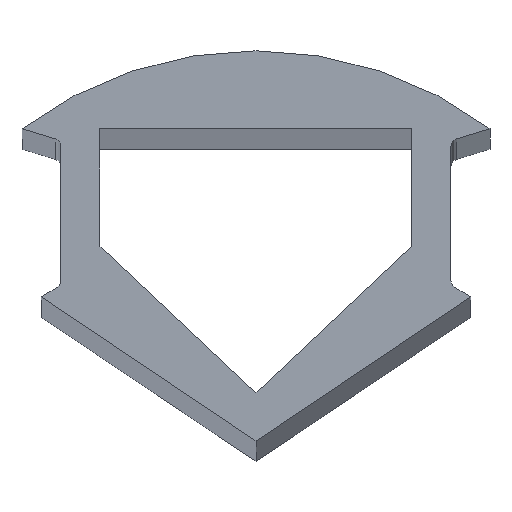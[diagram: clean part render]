
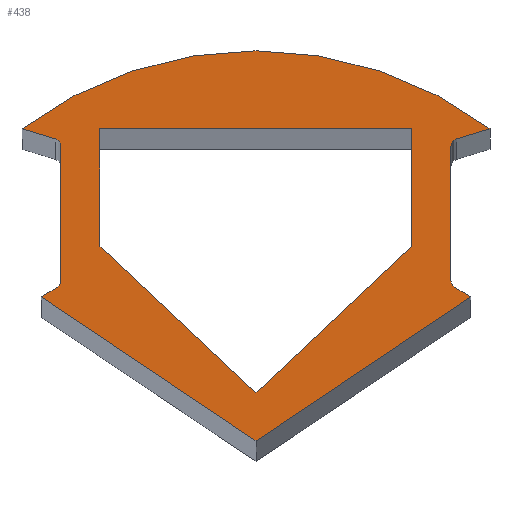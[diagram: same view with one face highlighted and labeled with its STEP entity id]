
A CAD part, top view. The second image highlights one B-rep face of the part: STEP entity #438.
In plain terms, the highlighted planar face has unit normal (0, 0, 1).
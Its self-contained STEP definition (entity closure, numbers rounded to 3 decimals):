
#6 = DIRECTION ( 'NONE',  ( 0., 0., -1. ) ) ;
#7 = VERTEX_POINT ( 'NONE', #629 ) ;
#9 = CARTESIAN_POINT ( 'NONE',  ( 5.2, 2.548, 150. ) ) ;
#20 = EDGE_CURVE ( 'NONE', #688, #523, #260, .T. ) ;
#23 = LINE ( 'NONE', #658, #35 ) ;
#25 = DIRECTION ( 'NONE',  ( 0., 0., -1. ) ) ;
#35 = VECTOR ( 'NONE', #586, 1000. ) ;
#36 = ORIENTED_EDGE ( 'NONE', *, *, #182, .T. ) ;
#37 = AXIS2_PLACEMENT_3D ( 'NONE', #93, #25, #661 ) ;
#39 = LINE ( 'NONE', #681, #652 ) ;
#41 = VERTEX_POINT ( 'NONE', #333 ) ;
#51 = VECTOR ( 'NONE', #569, 1000. ) ;
#52 = CARTESIAN_POINT ( 'NONE',  ( 4., -0.016, 150. ) ) ;
#54 = ORIENTED_EDGE ( 'NONE', *, *, #163, .T. ) ;
#55 = AXIS2_PLACEMENT_3D ( 'NONE', #226, #153, #82 ) ;
#57 = LINE ( 'NONE', #699, #515 ) ;
#62 = CIRCLE ( 'NONE', #78, 0.2 ) ;
#66 = ORIENTED_EDGE ( 'NONE', *, *, #20, .T. ) ;
#70 = EDGE_CURVE ( 'NONE', #110, #41, #592, .T. ) ;
#78 = AXIS2_PLACEMENT_3D ( 'NONE', #9, #648, #576 ) ;
#79 = CARTESIAN_POINT ( 'NONE',  ( 6., 3., 150. ) ) ;
#80 = VERTEX_POINT ( 'NONE', #85 ) ;
#82 = DIRECTION ( 'NONE',  ( 1., 0., 0. ) ) ;
#85 = CARTESIAN_POINT ( 'NONE',  ( -5.5, -1.312, 150. ) ) ;
#88 = ORIENTED_EDGE ( 'NONE', *, *, #130, .T. ) ;
#93 = CARTESIAN_POINT ( 'NONE',  ( -5.2, -0.889, 150. ) ) ;
#103 = ORIENTED_EDGE ( 'NONE', *, *, #70, .F. ) ;
#107 = CARTESIAN_POINT ( 'NONE',  ( 5.142, 2.74, 150. ) ) ;
#110 = VERTEX_POINT ( 'NONE', #640 ) ;
#115 = EDGE_CURVE ( 'NONE', #80, #7, #694, .T. ) ;
#117 = DIRECTION ( 'NONE',  ( -0.849, 0.529, 0. ) ) ;
#119 = CIRCLE ( 'NONE', #131, 10. ) ;
#129 = AXIS2_PLACEMENT_3D ( 'NONE', #150, #6, #645 ) ;
#130 = EDGE_CURVE ( 'NONE', #305, #237, #323, .T. ) ;
#131 = AXIS2_PLACEMENT_3D ( 'NONE', #228, #505, #427 ) ;
#132 = LINE ( 'NONE', #52, #148 ) ;
#134 = VECTOR ( 'NONE', #280, 1000. ) ;
#146 = CARTESIAN_POINT ( 'NONE',  ( -6., 3., 150. ) ) ;
#148 = VECTOR ( 'NONE', #696, 1000. ) ;
#150 = CARTESIAN_POINT ( 'NONE',  ( -5.2, 2.548, 150. ) ) ;
#151 = ORIENTED_EDGE ( 'NONE', *, *, #664, .T. ) ;
#153 = DIRECTION ( 'NONE',  ( 0., 0., -1. ) ) ;
#161 = VERTEX_POINT ( 'NONE', #107 ) ;
#162 = VECTOR ( 'NONE', #276, 1000. ) ;
#163 = EDGE_CURVE ( 'NONE', #467, #384, #39, .T. ) ;
#170 = DIRECTION ( 'NONE',  ( 0.957, 0.29, 0. ) ) ;
#182 = EDGE_CURVE ( 'NONE', #494, #534, #23, .T. ) ;
#183 = DIRECTION ( 'NONE',  ( 0., 1., 0. ) ) ;
#189 = CARTESIAN_POINT ( 'NONE',  ( 5.094, -1.059, 150. ) ) ;
#194 = ORIENTED_EDGE ( 'NONE', *, *, #571, .T. ) ;
#211 = VECTOR ( 'NONE', #450, 1000. ) ;
#226 = CARTESIAN_POINT ( 'NONE',  ( 5.2, -0.889, 150. ) ) ;
#228 = CARTESIAN_POINT ( 'NONE',  ( 0., -5., 150. ) ) ;
#236 = EDGE_CURVE ( 'NONE', #7, #688, #57, .T. ) ;
#237 = VERTEX_POINT ( 'NONE', #482 ) ;
#244 = CARTESIAN_POINT ( 'NONE',  ( 6., 3., 150. ) ) ;
#255 = CARTESIAN_POINT ( 'NONE',  ( 5., 2.548, 150. ) ) ;
#257 = EDGE_LOOP ( 'NONE', ( #481, #319, #371, #103, #263 ) ) ;
#260 = LINE ( 'NONE', #189, #710 ) ;
#263 = ORIENTED_EDGE ( 'NONE', *, *, #462, .F. ) ;
#275 = EDGE_CURVE ( 'NONE', #161, #570, #312, .T. ) ;
#276 = DIRECTION ( 'NONE',  ( 0., -1., 0. ) ) ;
#280 = DIRECTION ( 'NONE',  ( 0.729, -0.684, 0. ) ) ;
#285 = DIRECTION ( 'NONE',  ( 1., 0., 0. ) ) ;
#298 = CARTESIAN_POINT ( 'NONE',  ( -5.094, -1.059, 150. ) ) ;
#301 = ORIENTED_EDGE ( 'NONE', *, *, #708, .T. ) ;
#305 = VERTEX_POINT ( 'NONE', #368 ) ;
#310 = VERTEX_POINT ( 'NONE', #298 ) ;
#312 = LINE ( 'NONE', #244, #698 ) ;
#319 = ORIENTED_EDGE ( 'NONE', *, *, #329, .F. ) ;
#323 = LINE ( 'NONE', #255, #637 ) ;
#324 = EDGE_CURVE ( 'NONE', #523, #305, #557, .T. ) ;
#328 = EDGE_CURVE ( 'NONE', #237, #161, #62, .T. ) ;
#329 = EDGE_CURVE ( 'NONE', #684, #518, #426, .T. ) ;
#333 = CARTESIAN_POINT ( 'NONE',  ( -4., 3., 150. ) ) ;
#350 = CARTESIAN_POINT ( 'NONE',  ( -4., 3., 150. ) ) ;
#353 = CARTESIAN_POINT ( 'NONE',  ( -4., -0.016, 150. ) ) ;
#357 = DIRECTION ( 'NONE',  ( 0., 0., 1. ) ) ;
#366 = ORIENTED_EDGE ( 'NONE', *, *, #275, .T. ) ;
#368 = CARTESIAN_POINT ( 'NONE',  ( 5., -0.889, 150. ) ) ;
#371 = ORIENTED_EDGE ( 'NONE', *, *, #598, .F. ) ;
#383 = CARTESIAN_POINT ( 'NONE',  ( -5.142, 2.74, 150. ) ) ;
#384 = VERTEX_POINT ( 'NONE', #472 ) ;
#389 = CIRCLE ( 'NONE', #129, 0.2 ) ;
#405 = ORIENTED_EDGE ( 'NONE', *, *, #328, .T. ) ;
#426 = LINE ( 'NONE', #353, #134 ) ;
#427 = DIRECTION ( 'NONE',  ( 1., 0., 0. ) ) ;
#429 = CARTESIAN_POINT ( 'NONE',  ( 5.2, -0.889, 150. ) ) ;
#438 = ADVANCED_FACE ( 'NONE', ( #545, #583 ), #507, .T. ) ;
#449 = DIRECTION ( 'NONE',  ( -0.849, -0.529, 0. ) ) ;
#450 = DIRECTION ( 'NONE',  ( -1., 0., 0. ) ) ;
#456 = ORIENTED_EDGE ( 'NONE', *, *, #552, .T. ) ;
#462 = EDGE_CURVE ( 'NONE', #588, #110, #711, .T. ) ;
#465 = VECTOR ( 'NONE', #449, 1000. ) ;
#467 = VERTEX_POINT ( 'NONE', #493 ) ;
#472 = CARTESIAN_POINT ( 'NONE',  ( -5., -0.889, 150. ) ) ;
#475 = ORIENTED_EDGE ( 'NONE', *, *, #236, .T. ) ;
#481 = ORIENTED_EDGE ( 'NONE', *, *, #497, .F. ) ;
#482 = CARTESIAN_POINT ( 'NONE',  ( 5., 2.548, 150. ) ) ;
#493 = CARTESIAN_POINT ( 'NONE',  ( -5., 2.548, 150. ) ) ;
#494 = VERTEX_POINT ( 'NONE', #146 ) ;
#497 = EDGE_CURVE ( 'NONE', #518, #588, #132, .T. ) ;
#498 = CARTESIAN_POINT ( 'NONE',  ( 4., -0.016, 150. ) ) ;
#505 = DIRECTION ( 'NONE',  ( 0., 0., 1. ) ) ;
#507 = PLANE ( 'NONE',  #622 ) ;
#515 = VECTOR ( 'NONE', #627, 1000. ) ;
#518 = VERTEX_POINT ( 'NONE', #605 ) ;
#521 = CARTESIAN_POINT ( 'NONE',  ( -5.094, -1.059, 150. ) ) ;
#522 = CARTESIAN_POINT ( 'NONE',  ( -4., 3., 150. ) ) ;
#523 = VERTEX_POINT ( 'NONE', #533 ) ;
#533 = CARTESIAN_POINT ( 'NONE',  ( 5.094, -1.059, 150. ) ) ;
#534 = VERTEX_POINT ( 'NONE', #383 ) ;
#543 = VECTOR ( 'NONE', #547, 1000. ) ;
#545 = FACE_OUTER_BOUND ( 'NONE', #584, .T. ) ;
#547 = DIRECTION ( 'NONE',  ( 0.831, -0.557, 0. ) ) ;
#552 = EDGE_CURVE ( 'NONE', #384, #310, #614, .T. ) ;
#557 = CIRCLE ( 'NONE', #55, 0.2 ) ;
#569 = DIRECTION ( 'NONE',  ( 0., 1., 0. ) ) ;
#570 = VERTEX_POINT ( 'NONE', #79 ) ;
#571 = EDGE_CURVE ( 'NONE', #534, #467, #389, .T. ) ;
#573 = LINE ( 'NONE', #350, #162 ) ;
#576 = DIRECTION ( 'NONE',  ( -1., 0., 0. ) ) ;
#577 = CARTESIAN_POINT ( 'NONE',  ( 5.5, -1.312, 150. ) ) ;
#583 = FACE_BOUND ( 'NONE', #257, .T. ) ;
#584 = EDGE_LOOP ( 'NONE', ( #88, #405, #366, #301, #36, #194, #54, #456, #151, #669, #475, #66, #643 ) ) ;
#586 = DIRECTION ( 'NONE',  ( 0.957, -0.29, 0. ) ) ;
#588 = VERTEX_POINT ( 'NONE', #498 ) ;
#591 = LINE ( 'NONE', #521, #465 ) ;
#592 = LINE ( 'NONE', #522, #211 ) ;
#598 = EDGE_CURVE ( 'NONE', #41, #684, #573, .T. ) ;
#602 = DIRECTION ( 'NONE',  ( 0., -1., 0. ) ) ;
#605 = CARTESIAN_POINT ( 'NONE',  ( 0., -3.767, 150. ) ) ;
#614 = CIRCLE ( 'NONE', #37, 0.2 ) ;
#622 = AXIS2_PLACEMENT_3D ( 'NONE', #429, #357, #285 ) ;
#624 = CARTESIAN_POINT ( 'NONE',  ( -5.5, -1.312, 150. ) ) ;
#627 = DIRECTION ( 'NONE',  ( 0.831, 0.557, 0. ) ) ;
#629 = CARTESIAN_POINT ( 'NONE',  ( 0., -5., 150. ) ) ;
#637 = VECTOR ( 'NONE', #183, 1000. ) ;
#640 = CARTESIAN_POINT ( 'NONE',  ( 4., 3., 150. ) ) ;
#642 = CARTESIAN_POINT ( 'NONE',  ( 4., 3., 150. ) ) ;
#643 = ORIENTED_EDGE ( 'NONE', *, *, #324, .T. ) ;
#645 = DIRECTION ( 'NONE',  ( 1., 0., 0. ) ) ;
#648 = DIRECTION ( 'NONE',  ( 0., 0., -1. ) ) ;
#649 = CARTESIAN_POINT ( 'NONE',  ( -4., -0.016, 150. ) ) ;
#652 = VECTOR ( 'NONE', #602, 1000. ) ;
#658 = CARTESIAN_POINT ( 'NONE',  ( -6., 3., 150. ) ) ;
#661 = DIRECTION ( 'NONE',  ( 1., 0., 0. ) ) ;
#664 = EDGE_CURVE ( 'NONE', #310, #80, #591, .T. ) ;
#669 = ORIENTED_EDGE ( 'NONE', *, *, #115, .T. ) ;
#681 = CARTESIAN_POINT ( 'NONE',  ( -5., 2.548, 150. ) ) ;
#684 = VERTEX_POINT ( 'NONE', #649 ) ;
#688 = VERTEX_POINT ( 'NONE', #577 ) ;
#694 = LINE ( 'NONE', #624, #543 ) ;
#696 = DIRECTION ( 'NONE',  ( 0.729, 0.684, 0. ) ) ;
#698 = VECTOR ( 'NONE', #170, 1000. ) ;
#699 = CARTESIAN_POINT ( 'NONE',  ( 5.5, -1.312, 150. ) ) ;
#708 = EDGE_CURVE ( 'NONE', #570, #494, #119, .T. ) ;
#710 = VECTOR ( 'NONE', #117, 1000. ) ;
#711 = LINE ( 'NONE', #642, #51 ) ;
